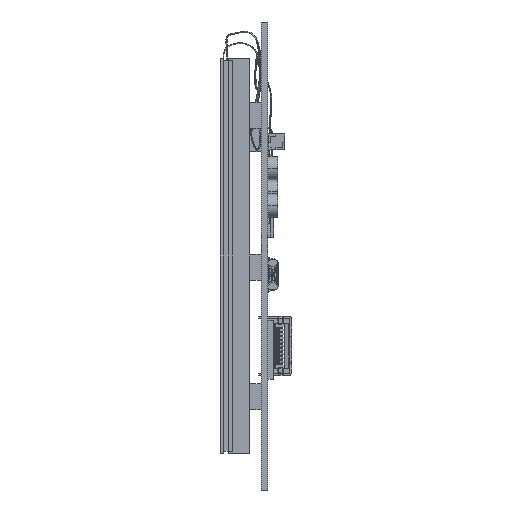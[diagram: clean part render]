
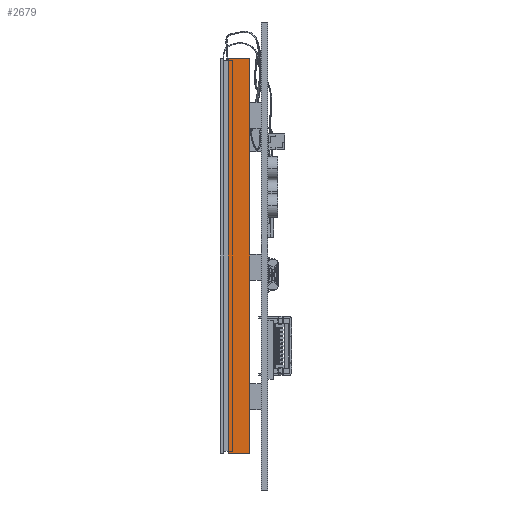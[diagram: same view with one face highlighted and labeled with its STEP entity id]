
A CAD part, left-side view. The second image highlights one B-rep face of the part: STEP entity #2679.
In plain terms, the highlighted planar face has unit normal (-1, 0, 0).
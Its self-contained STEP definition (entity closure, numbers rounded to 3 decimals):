
#591=DIRECTION('',(0.,0.,1.));
#592=VECTOR('',#591,99.8);
#593=CARTESIAN_POINT('',(-82.4,4.6,-49.9));
#594=LINE('',#593,#592);
#671=DIRECTION('',(0.,1.,0.));
#672=VECTOR('',#671,5.4);
#673=CARTESIAN_POINT('',(-82.4,4.6,-49.9));
#674=LINE('',#673,#672);
#683=DIRECTION('',(0.,1.,0.));
#684=VECTOR('',#683,5.4);
#685=CARTESIAN_POINT('',(-82.4,4.6,49.9));
#686=LINE('',#685,#684);
#687=DIRECTION('',(0.,0.,1.));
#688=VECTOR('',#687,99.8);
#689=CARTESIAN_POINT('',(-82.4,10.,-49.9));
#690=LINE('',#689,#688);
#1535=CARTESIAN_POINT('',(-82.4,4.6,-49.9));
#1536=CARTESIAN_POINT('',(-82.4,4.6,49.9));
#1537=VERTEX_POINT('',#1535);
#1538=VERTEX_POINT('',#1536);
#1543=CARTESIAN_POINT('',(-82.4,10.,-49.9));
#1544=CARTESIAN_POINT('',(-82.4,10.,49.9));
#1545=VERTEX_POINT('',#1543);
#1546=VERTEX_POINT('',#1544);
#2665=CARTESIAN_POINT('',(-82.4,4.6,-49.9));
#2666=DIRECTION('',(-1.,0.,0.));
#2667=DIRECTION('',(0.,0.,1.));
#2668=AXIS2_PLACEMENT_3D('',#2665,#2666,#2667);
#2669=PLANE('',#2668);
#2670=ORIENTED_EDGE('',*,*,#2618,.F.);
#2672=ORIENTED_EDGE('',*,*,#2671,.T.);
#2674=ORIENTED_EDGE('',*,*,#2673,.T.);
#2676=ORIENTED_EDGE('',*,*,#2675,.F.);
#2677=EDGE_LOOP('',(#2670,#2672,#2674,#2676));
#2678=FACE_OUTER_BOUND('',#2677,.F.);
#2618=EDGE_CURVE('',#1537,#1538,#594,.T.);
#2671=EDGE_CURVE('',#1537,#1545,#674,.T.);
#2673=EDGE_CURVE('',#1545,#1546,#690,.T.);
#2675=EDGE_CURVE('',#1538,#1546,#686,.T.);
#2679=ADVANCED_FACE('',(#2678),#2669,.T.);
